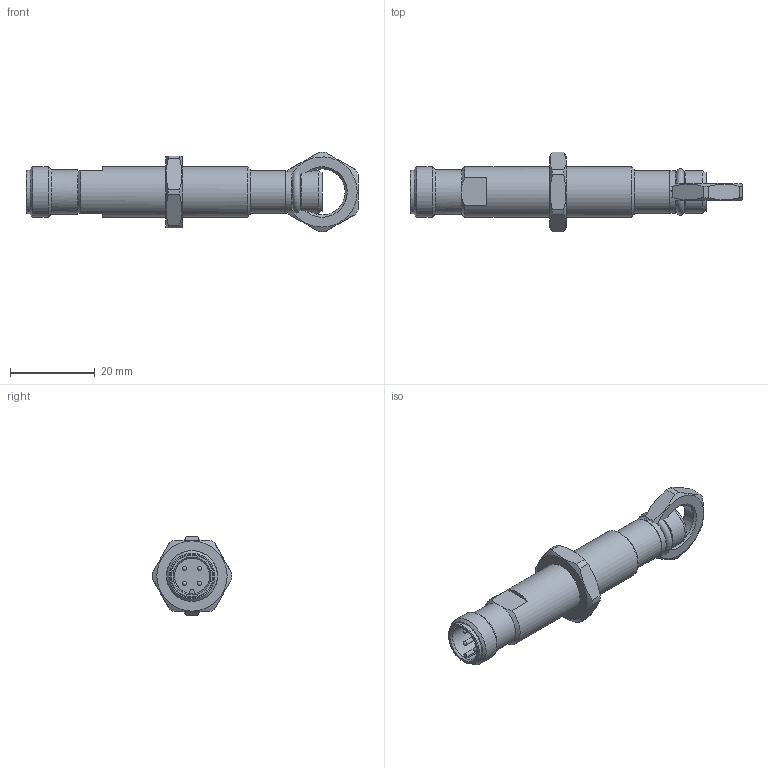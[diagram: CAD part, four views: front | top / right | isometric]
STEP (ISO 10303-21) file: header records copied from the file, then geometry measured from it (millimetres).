
FILE_DESCRIPTION( ( 'Unknown' ), '1' );
FILE_NAME( '//baumerholding.org/frauenfeld/bereich/BECH/Services/me_CAD/Solid Edge/Models/Dokumentationen/Induktiv/IxRx 12/Vereinfachte Modelle/Neutralformate/IFRP 12x1504_S14.stp', 'Unknown', ( 'Unknown' ), ( 'Unknown' ), 'XStep 1.0', 'Unknown', ' ' );
FILE_SCHEMA( ( 'CONFIG_CONTROL_DESIGN' ) );
Length unit declared in the file: millimetre
Products named in the file (3): Assem1; IFRP 12x1504_S14_oA; 105238
Bounding box: 78.5 x 18.9 x 18.9 mm (x, y, z)
Volume: 14323.3 mm3; surface area: 7742.2 mm2
Topology: 4 solids, 4 shells, 146 faces, 360 edges, 226 vertices
Faces by surface type: plane 60, cylinder 46, cone 28, sphere 8, torus 4
Full cylindrical faces by diameter (mm): 1 x8, 7.4 x4, 8.1 x2, 8.35 x2, 10 x4, 10.3 x2, 10.45 x2, 10.917 x2, 12 x4
Entity records: 2026 total; most frequent: CARTESIAN_POINT 422, DIRECTION 330, ORIENTED_EDGE 244, AXIS2_PLACEMENT_3D 148, EDGE_CURVE 122, EDGE_LOOP 114, VERTEX_POINT 92, FACE_OUTER_BOUND 90
